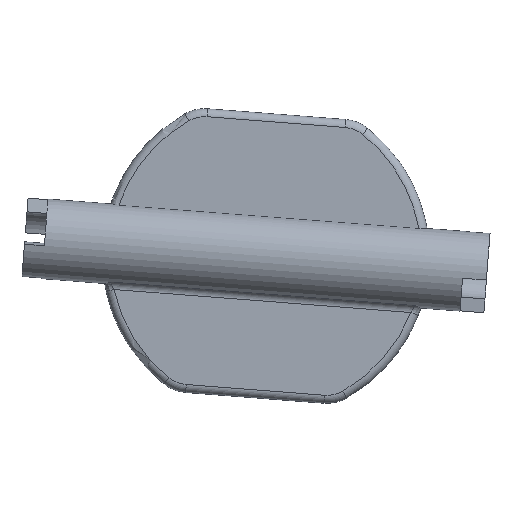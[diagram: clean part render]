
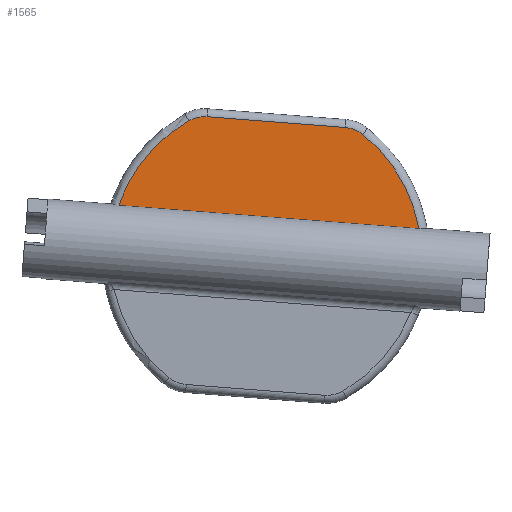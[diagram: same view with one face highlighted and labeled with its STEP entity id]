
A CAD part, front view. The second image highlights one B-rep face of the part: STEP entity #1565.
In plain terms, the highlighted planar face has unit normal (0, -1, 0).
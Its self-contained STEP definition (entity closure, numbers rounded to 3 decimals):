
#1=DIRECTION('',(0.997,0.,-0.077));
#2=VECTOR('',#1,37.749);
#3=CARTESIAN_POINT('',(751.736,-1.,134.34));
#4=LINE('',#3,#2);
#5=CARTESIAN_POINT('',(770.175,-1.,127.996));
#6=DIRECTION('',(0.,1.,0.));
#7=DIRECTION('',(-0.946,0.,0.325));
#8=AXIS2_PLACEMENT_3D('',#5,#6,#7);
#10=CARTESIAN_POINT('',(762.503,-1.,141.464));
#11=DIRECTION('',(0.,1.,0.));
#12=DIRECTION('',(-0.495,0.,0.869));
#13=AXIS2_PLACEMENT_3D('',#10,#11,#12);
#15=DIRECTION('',(0.997,0.,-0.077));
#16=VECTOR('',#15,17.38);
#17=CARTESIAN_POINT('',(762.813,-1.,145.452));
#18=LINE('',#17,#16);
#19=CARTESIAN_POINT('',(779.831,-1.,140.121));
#20=DIRECTION('',(0.,1.,0.));
#21=DIRECTION('',(0.077,0.,0.997));
#22=AXIS2_PLACEMENT_3D('',#19,#20,#21);
#24=CARTESIAN_POINT('',(770.175,-1.,127.996));
#25=DIRECTION('',(0.,1.,0.));
#26=DIRECTION('',(0.623,0.,0.782));
#27=AXIS2_PLACEMENT_3D('',#24,#25,#26);
#1357=CARTESIAN_POINT('',(751.736,-1.,134.34));
#1358=CARTESIAN_POINT('',(789.372,-1.,131.421));
#1359=VERTEX_POINT('',#1357);
#1360=VERTEX_POINT('',#1358);
#1538=CARTESIAN_POINT('',(782.323,-1.,143.25));
#1539=VERTEX_POINT('',#1538);
#1540=CARTESIAN_POINT('',(780.14,-1.,144.109));
#1541=VERTEX_POINT('',#1540);
#1542=CARTESIAN_POINT('',(762.813,-1.,145.452));
#1543=VERTEX_POINT('',#1542);
#1544=CARTESIAN_POINT('',(760.524,-1.,144.94));
#1545=VERTEX_POINT('',#1544);
#1546=CARTESIAN_POINT('',(0.,-1.,0.));
#1547=DIRECTION('',(0.,1.,0.));
#1548=DIRECTION('',(1.,0.,0.));
#1549=AXIS2_PLACEMENT_3D('',#1546,#1547,#1548);
#1550=PLANE('',#1549);
#1552=ORIENTED_EDGE('',*,*,#1551,.F.);
#1554=ORIENTED_EDGE('',*,*,#1553,.T.);
#1556=ORIENTED_EDGE('',*,*,#1555,.T.);
#1558=ORIENTED_EDGE('',*,*,#1557,.T.);
#1560=ORIENTED_EDGE('',*,*,#1559,.T.);
#1562=ORIENTED_EDGE('',*,*,#1561,.T.);
#1563=EDGE_LOOP('',(#1552,#1554,#1556,#1558,#1560,#1562));
#1564=FACE_OUTER_BOUND('',#1563,.F.);
#1565=ADVANCED_FACE('',(#1564),#1550,.F.);
#9=CIRCLE('',#8,19.5);
#14=CIRCLE('',#13,4.);
#23=CIRCLE('',#22,4.);
#28=CIRCLE('',#27,19.5);
#1551=EDGE_CURVE('',#1359,#1360,#4,.T.);
#1553=EDGE_CURVE('',#1359,#1545,#9,.T.);
#1555=EDGE_CURVE('',#1545,#1543,#14,.T.);
#1557=EDGE_CURVE('',#1543,#1541,#18,.T.);
#1559=EDGE_CURVE('',#1541,#1539,#23,.T.);
#1561=EDGE_CURVE('',#1539,#1360,#28,.T.);
